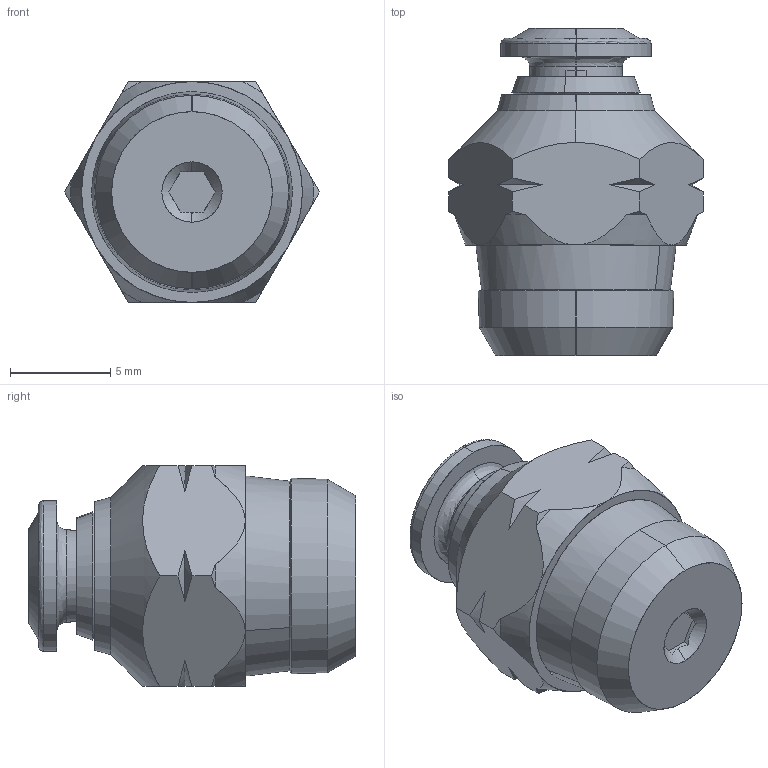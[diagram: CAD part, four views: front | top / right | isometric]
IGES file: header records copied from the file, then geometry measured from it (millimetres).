
Start section: SolidWorks IGES file using analytic representation for surfaces
Global section: file name: K:\Disegni Esecutivi\Alpha Technologies\Assiemi-89000\89000\89000_iges\8900000001A.IGS; native system: SolidWorks 2009; preprocessor: SolidWorks 2009; author: cad05; date: 091019.084048; units: millimetre
Bounding box: 12.7 x 16.3 x 11 mm (x, y, z)
Surface area: 693.1 mm2 (no closed solid volume)
Topology: 0 solids, 0 shells, 89 faces, 1098 edges, 1098 vertices
Faces by surface type: revolution 57, bspline 32
